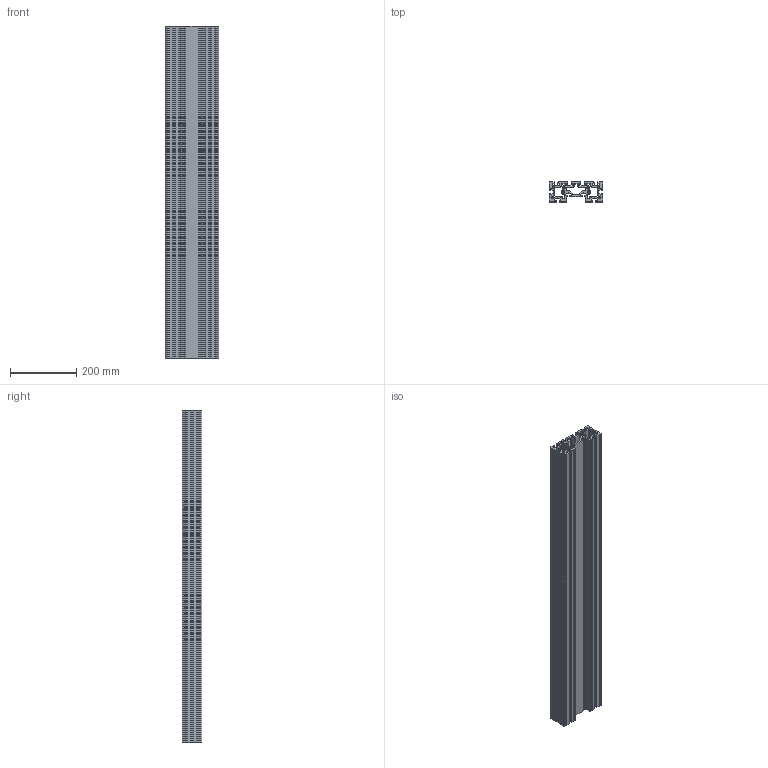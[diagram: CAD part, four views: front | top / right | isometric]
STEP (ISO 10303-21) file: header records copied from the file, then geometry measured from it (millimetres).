
FILE_DESCRIPTION (( 'STEP AP214' ), '1' );
FILE_NAME ('60õ160.STEP', '2020-09-25T10:03:12', ( '' ), ( '' ), 'SwSTEP 2.0', 'SolidWorks 2014', '' );
FILE_SCHEMA (( 'AUTOMOTIVE_DESIGN' ));
Length unit declared in the file: millimetre
Products named in the file (2): 60õ160
Bounding box: 160 x 60 x 1000 mm (x, y, z)
Volume: 3939554.6 mm3; surface area: 1493027.4 mm2
Topology: 1 solids, 1 shells, 511 faces, 1527 edges, 1018 vertices
Faces by surface type: cylinder 265, plane 246
Entity records: 17412 total; most frequent: DIRECTION 3083, CARTESIAN_POINT 3058, ORIENTED_EDGE 3054, EDGE_CURVE 1527, AXIS2_PLACEMENT_3D 1043, VERTEX_POINT 1018, VECTOR 997, LINE 997
